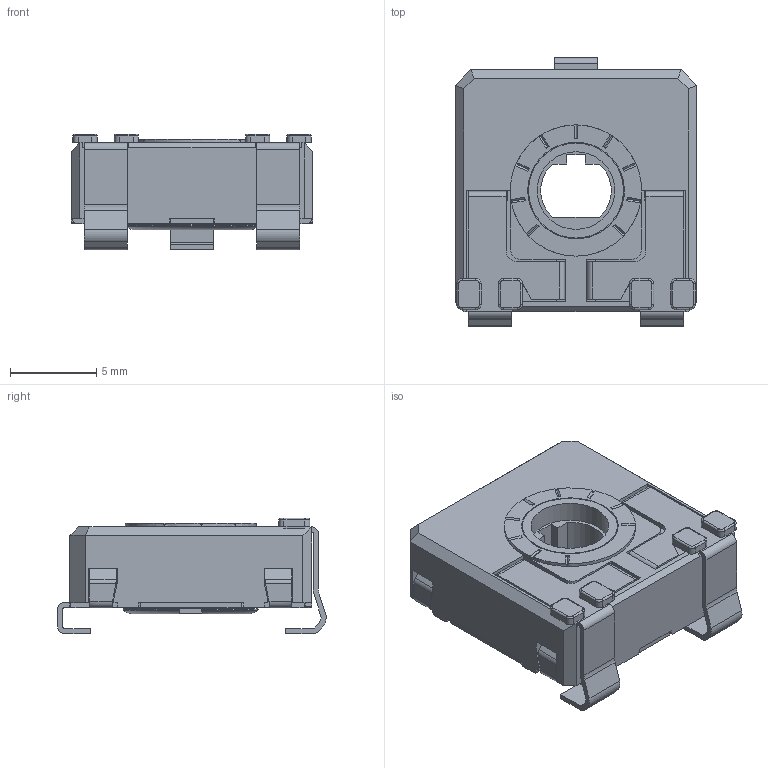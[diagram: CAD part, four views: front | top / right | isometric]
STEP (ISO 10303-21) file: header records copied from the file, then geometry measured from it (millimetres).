
FILE_DESCRIPTION(/* description */ (''),/* implementation_level */ '2;1');
FILE_NAME(/* name */ 'C:\Users\CEM\Desktop\ENVIAR\TRANSICION 3D CATALOGOS\RS14TVSMD.stp',/* time_stamp */ '2025-12-10T12:17:52+01:00',/* author */ ('CEM'),/* organization */ (''),/* preprocessor_version */ 'ST-DEVELOPER v16.13',/* originating_system */ 'Autodesk Inventor 2018',/* authorisation */ '');
FILE_SCHEMA (('AUTOMOTIVE_DESIGN { 1 0 10303 214 3 1 1 }'));
Length unit declared in the file: millimetre
Products named in the file (1): CARCASA CA14 PGA
Bounding box: 14 x 15.55 x 6.7 mm (x, y, z)
Volume: 527.1 mm3; surface area: 1459.8 mm2
Topology: 1 solids, 1 shells, 553 faces, 1560 edges, 995 vertices
Faces by surface type: plane 410, cylinder 106, torus 23, bspline 8, cone 6
Full cylindrical faces by diameter (mm): 4.5 x1, 5.1 x1, 5.5 x1, 5.6 x1, 5.752 x1, 6.8 x1, 7.6 x1
Entity records: 17944 total; most frequent: CARTESIAN_POINT 3298, ORIENTED_EDGE 3086, DIRECTION 2902, EDGE_CURVE 1543, LINE 1220, VECTOR 1220, VERTEX_POINT 989, AXIS2_PLACEMENT_3D 841
